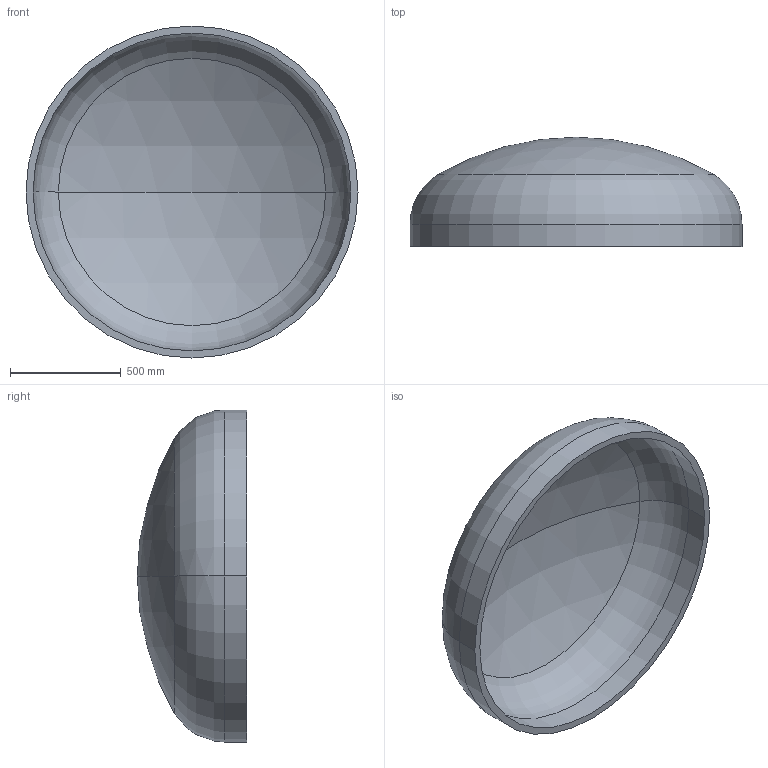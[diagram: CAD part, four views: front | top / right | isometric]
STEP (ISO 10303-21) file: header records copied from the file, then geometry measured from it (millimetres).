
FILE_DESCRIPTION (( 'STEP AP203' ), '1' );
FILE_NAME ('DIN 28013 Korbbogenform_-_Boden DIN 28013 - 1500 x 100 - I - s=32.step', '2016-07-01T10:42:57', ( '' ), ( '' ), 'SwSTEP 2.0', 'SolidWorks 2013', '' );
FILE_SCHEMA (( 'CONFIG_CONTROL_DESIGN' ));
Length unit declared in the file: millimetre
Products named in the file (1): DIN 28013 Korbbogenform_-_Boden DIN 28013 - 1500 x 100 - I - s=32
Bounding box: 1500 x 493.69 x 1500 mm (x, y, z)
Volume: 90844487.6 mm3; surface area: 5827502.8 mm2
Topology: 1 solids, 1 shells, 13 faces, 24 edges, 14 vertices
Faces by surface type: torus 4, cylinder 4, sphere 4, plane 1
Entity records: 407 total; most frequent: DIRECTION 72, CARTESIAN_POINT 52, ORIENTED_EDGE 48, AXIS2_PLACEMENT_3D 34, EDGE_CURVE 24, CIRCLE 20, VERTEX_POINT 14, EDGE_LOOP 14
